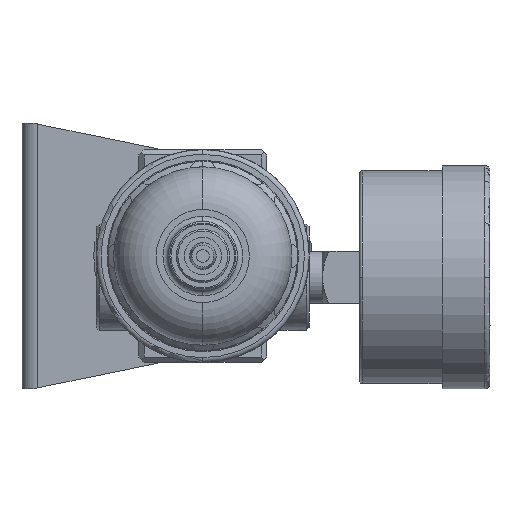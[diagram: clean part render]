
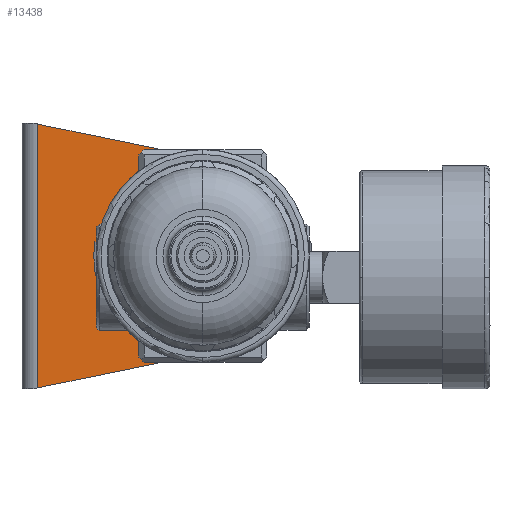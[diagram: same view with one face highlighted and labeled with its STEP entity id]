
A CAD part, front view. The second image highlights one B-rep face of the part: STEP entity #13438.
In plain terms, the highlighted planar face has unit normal (0, -1, 0).
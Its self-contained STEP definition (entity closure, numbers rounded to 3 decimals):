
#1291 = VECTOR ( 'NONE', #14072, 1000. ) ;
#1454 = EDGE_CURVE ( 'NONE', #9612, #16986, #24471, .T. ) ;
#1635 = DIRECTION ( 'NONE',  ( 0., 0., 1. ) ) ;
#1657 = DIRECTION ( 'NONE',  ( 0., -1., 0. ) ) ;
#1906 = VERTEX_POINT ( 'NONE', #5708 ) ;
#2030 = ORIENTED_EDGE ( 'NONE', *, *, #28344, .T. ) ;
#3060 = CARTESIAN_POINT ( 'NONE',  ( 3.459, 24.1, 17.664 ) ) ;
#4846 = CIRCLE ( 'NONE', #37630, 16. ) ;
#5213 = EDGE_LOOP ( 'NONE', ( #9652, #15278 ) ) ;
#5227 = DIRECTION ( 'NONE',  ( 0., -1., 0. ) ) ;
#5532 = FACE_BOUND ( 'NONE', #5213, .T. ) ;
#5698 = DIRECTION ( 'NONE',  ( 0., 0., 1. ) ) ;
#5706 = VERTEX_POINT ( 'NONE', #3060 ) ;
#5708 = CARTESIAN_POINT ( 'NONE',  ( 0., 24.1, 16. ) ) ;
#5711 = VERTEX_POINT ( 'NONE', #27462 ) ;
#6018 = FACE_OUTER_BOUND ( 'NONE', #20802, .T. ) ;
#6992 = ORIENTED_EDGE ( 'NONE', *, *, #11430, .T. ) ;
#7542 = VECTOR ( 'NONE', #25571, 1000. ) ;
#7700 = AXIS2_PLACEMENT_3D ( 'NONE', #19931, #1657, #31182 ) ;
#8038 = ORIENTED_EDGE ( 'NONE', *, *, #26166, .T. ) ;
#8040 = CARTESIAN_POINT ( 'NONE',  ( -31., 24.1, -24.793 ) ) ;
#8353 = CARTESIAN_POINT ( 'NONE',  ( 0., 24.1, 0. ) ) ;
#8383 = CARTESIAN_POINT ( 'NONE',  ( 18., 24.1, 2.5 ) ) ;
#8467 = LINE ( 'NONE', #8040, #1291 ) ;
#8519 = CARTESIAN_POINT ( 'NONE',  ( 17.826, 24.1, 2.5 ) ) ;
#8718 = EDGE_CURVE ( 'NONE', #29881, #1906, #4846, .T. ) ;
#8770 = VECTOR ( 'NONE', #38690, 1000. ) ;
#9114 = ORIENTED_EDGE ( 'NONE', *, *, #18450, .T. ) ;
#9327 = CIRCLE ( 'NONE', #35644, 18. ) ;
#9361 = DIRECTION ( 'NONE',  ( -1., 0., 0. ) ) ;
#9612 = VERTEX_POINT ( 'NONE', #8383 ) ;
#9652 = ORIENTED_EDGE ( 'NONE', *, *, #8718, .T. ) ;
#9710 = CARTESIAN_POINT ( 'NONE',  ( 17.826, 24.1, -2.5 ) ) ;
#9831 = EDGE_CURVE ( 'NONE', #23283, #20722, #9327, .T. ) ;
#11275 = CARTESIAN_POINT ( 'NONE',  ( 0., 24.1, 0. ) ) ;
#11312 = EDGE_CURVE ( 'NONE', #20722, #39065, #21849, .T. ) ;
#11430 = EDGE_CURVE ( 'NONE', #5711, #23283, #8467, .T. ) ;
#12470 = DIRECTION ( 'NONE',  ( 0., 1., 0. ) ) ;
#13438 = ADVANCED_FACE ( 'NONE', ( #6018, #5532 ), #20070, .T. ) ;
#14072 = DIRECTION ( 'NONE',  ( 0.979, 0., 0.203 ) ) ;
#14198 = VECTOR ( 'NONE', #5698, 1000. ) ;
#15278 = ORIENTED_EDGE ( 'NONE', *, *, #34774, .T. ) ;
#15539 = DIRECTION ( 'NONE',  ( 0., 0., -1. ) ) ;
#15580 = AXIS2_PLACEMENT_3D ( 'NONE', #11275, #5227, #1635 ) ;
#15830 = DIRECTION ( 'NONE',  ( 0., 0., 1. ) ) ;
#15966 = CARTESIAN_POINT ( 'NONE',  ( 0., 24.1, 0. ) ) ;
#16691 = CIRCLE ( 'NONE', #15580, 18. ) ;
#16727 = ORIENTED_EDGE ( 'NONE', *, *, #9831, .T. ) ;
#16986 = VERTEX_POINT ( 'NONE', #8519 ) ;
#18450 = EDGE_CURVE ( 'NONE', #5706, #27358, #24745, .T. ) ;
#18568 = CARTESIAN_POINT ( 'NONE',  ( 0., 24.1, -16. ) ) ;
#19931 = CARTESIAN_POINT ( 'NONE',  ( -31., 24.1, 25. ) ) ;
#20070 = PLANE ( 'NONE',  #7700 ) ;
#20084 = ORIENTED_EDGE ( 'NONE', *, *, #11312, .T. ) ;
#20192 = CARTESIAN_POINT ( 'NONE',  ( 3.459, 24.1, -17.664 ) ) ;
#20722 = VERTEX_POINT ( 'NONE', #9710 ) ;
#20802 = EDGE_LOOP ( 'NONE', ( #9114, #8038, #6992, #16727, #20084, #2030, #28011, #31501 ) ) ;
#20927 = CARTESIAN_POINT ( 'NONE',  ( 18., 24.1, 25. ) ) ;
#21145 = VECTOR ( 'NONE', #9361, 1000. ) ;
#21412 = AXIS2_PLACEMENT_3D ( 'NONE', #8353, #38475, #38215 ) ;
#21849 = LINE ( 'NONE', #28907, #37013 ) ;
#23171 = CARTESIAN_POINT ( 'NONE',  ( 3.459, 24.1, 17.664 ) ) ;
#23283 = VERTEX_POINT ( 'NONE', #20192 ) ;
#23352 = EDGE_CURVE ( 'NONE', #16986, #5706, #16691, .T. ) ;
#23570 = LINE ( 'NONE', #38042, #8770 ) ;
#24471 = LINE ( 'NONE', #27597, #21145 ) ;
#24727 = CARTESIAN_POINT ( 'NONE',  ( 0., 24.1, 0. ) ) ;
#24745 = LINE ( 'NONE', #23171, #7542 ) ;
#25523 = DIRECTION ( 'NONE',  ( 1., 0., 0. ) ) ;
#25571 = DIRECTION ( 'NONE',  ( -0.979, 0., 0.203 ) ) ;
#26166 = EDGE_CURVE ( 'NONE', #27358, #5711, #23570, .T. ) ;
#27358 = VERTEX_POINT ( 'NONE', #38925 ) ;
#27462 = CARTESIAN_POINT ( 'NONE',  ( -31., 24.1, -24.793 ) ) ;
#27597 = CARTESIAN_POINT ( 'NONE',  ( 22., 24.1, 2.5 ) ) ;
#28011 = ORIENTED_EDGE ( 'NONE', *, *, #1454, .T. ) ;
#28344 = EDGE_CURVE ( 'NONE', #39065, #9612, #30305, .T. ) ;
#28907 = CARTESIAN_POINT ( 'NONE',  ( 17.826, 24.1, -2.5 ) ) ;
#29881 = VERTEX_POINT ( 'NONE', #18568 ) ;
#30305 = LINE ( 'NONE', #20927, #14198 ) ;
#30317 = CARTESIAN_POINT ( 'NONE',  ( 18., 24.1, -2.5 ) ) ;
#31182 = DIRECTION ( 'NONE',  ( 0., 0., -1. ) ) ;
#31501 = ORIENTED_EDGE ( 'NONE', *, *, #23352, .T. ) ;
#33722 = DIRECTION ( 'NONE',  ( 0., -1., 0. ) ) ;
#34774 = EDGE_CURVE ( 'NONE', #1906, #29881, #36855, .T. ) ;
#35644 = AXIS2_PLACEMENT_3D ( 'NONE', #15966, #33722, #15830 ) ;
#36855 = CIRCLE ( 'NONE', #21412, 16. ) ;
#37013 = VECTOR ( 'NONE', #25523, 1000. ) ;
#37630 = AXIS2_PLACEMENT_3D ( 'NONE', #24727, #12470, #15539 ) ;
#38042 = CARTESIAN_POINT ( 'NONE',  ( -31., 24.1, 25. ) ) ;
#38215 = DIRECTION ( 'NONE',  ( 0., 0., -1. ) ) ;
#38475 = DIRECTION ( 'NONE',  ( 0., 1., 0. ) ) ;
#38690 = DIRECTION ( 'NONE',  ( 0., 0., -1. ) ) ;
#38925 = CARTESIAN_POINT ( 'NONE',  ( -31., 24.1, 24.793 ) ) ;
#39065 = VERTEX_POINT ( 'NONE', #30317 ) ;
